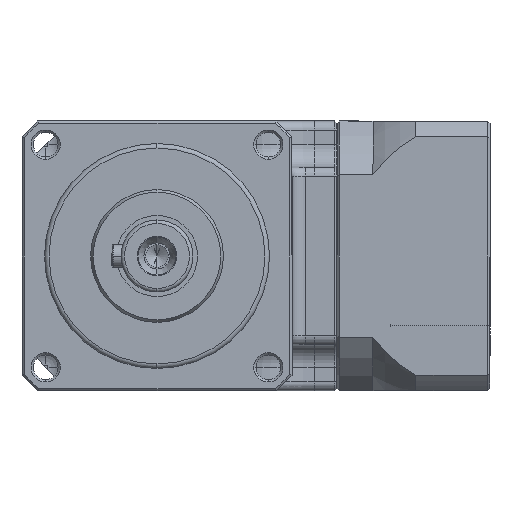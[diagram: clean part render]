
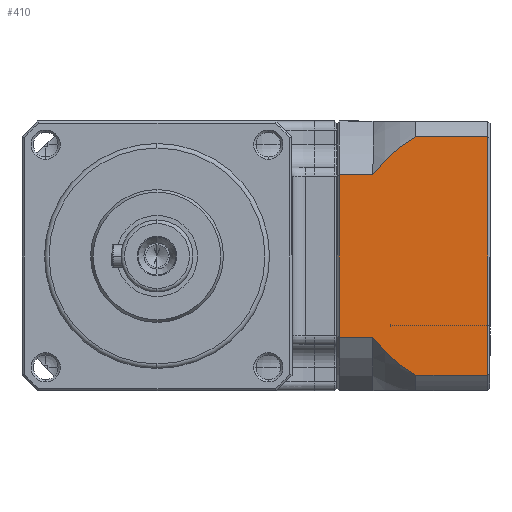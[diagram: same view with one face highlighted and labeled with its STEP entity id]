
A CAD part, left-side view. The second image highlights one B-rep face of the part: STEP entity #410.
In plain terms, the highlighted planar face has unit normal (-1, 0, 0).
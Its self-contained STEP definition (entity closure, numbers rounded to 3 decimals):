
#12 = CARTESIAN_POINT ( 'NONE',  ( -94.915, -6.428, -18.028 ) ) ;
#37 = CARTESIAN_POINT ( 'NONE',  ( -94.915, -39.428, -26.458 ) ) ;
#242 = EDGE_CURVE ( 'NONE', #864, #7754, #10297, .T. ) ;
#279 = DIRECTION ( 'NONE',  ( 0., 0., 1. ) ) ;
#410 = ADVANCED_FACE ( 'NONE', ( #5212 ), #8305, .T. ) ;
#492 = CARTESIAN_POINT ( 'NONE',  ( -94.915, -21.592, -25.36 ) ) ;
#608 = CARTESIAN_POINT ( 'NONE',  ( -94.915, -22.501, -25.929 ) ) ;
#632 = CARTESIAN_POINT ( 'NONE',  ( -94.915, -16.192, 26.458 ) ) ;
#748 = LINE ( 'NONE', #7892, #1726 ) ;
#864 = VERTEX_POINT ( 'NONE', #9892 ) ;
#876 = VERTEX_POINT ( 'NONE', #6378 ) ;
#1425 = VERTEX_POINT ( 'NONE', #7051 ) ;
#1726 = VECTOR ( 'NONE', #6139, 1000. ) ;
#2205 = CARTESIAN_POINT ( 'NONE',  ( -94.915, -39.428, 26.458 ) ) ;
#2316 = CARTESIAN_POINT ( 'NONE',  ( -94.915, -23.428, -26.458 ) ) ;
#2707 = VERTEX_POINT ( 'NONE', #37 ) ;
#2817 = VECTOR ( 'NONE', #4449, 1000. ) ;
#2979 = EDGE_LOOP ( 'NONE', ( #8581, #6240, #4646, #10051, #6019, #10329, #8052, #6110 ) ) ;
#3294 = VERTEX_POINT ( 'NONE', #6276 ) ;
#3393 = DIRECTION ( 'NONE',  ( 0., 1., 0. ) ) ;
#3545 = CARTESIAN_POINT ( 'NONE',  ( -94.915, -19.847, 24.143 ) ) ;
#3666 = CARTESIAN_POINT ( 'NONE',  ( -94.915, -21.595, 25.379 ) ) ;
#3778 = DIRECTION ( 'NONE',  ( -1., 0., 0. ) ) ;
#4093 = CARTESIAN_POINT ( 'NONE',  ( -94.915, -16.658, -21.309 ) ) ;
#4374 = CARTESIAN_POINT ( 'NONE',  ( -94.915, -6.428, -18.028 ) ) ;
#4449 = DIRECTION ( 'NONE',  ( 0., 0., -1. ) ) ;
#4557 = LINE ( 'NONE', #8365, #4818 ) ;
#4646 = ORIENTED_EDGE ( 'NONE', *, *, #8276, .T. ) ;
#4818 = VECTOR ( 'NONE', #5671, 1000. ) ;
#4953 = EDGE_CURVE ( 'NONE', #3294, #864, #7681, .T. ) ;
#4964 = CARTESIAN_POINT ( 'NONE',  ( -94.915, -22.961, -26.2 ) ) ;
#5062 = DIRECTION ( 'NONE',  ( 0., 1., 0. ) ) ;
#5152 = CARTESIAN_POINT ( 'NONE',  ( -94.915, -23.428, -26.458 ) ) ;
#5172 = LINE ( 'NONE', #632, #10000 ) ;
#5212 = FACE_OUTER_BOUND ( 'NONE', #2979, .T. ) ;
#5487 = VERTEX_POINT ( 'NONE', #5152 ) ;
#5589 = VECTOR ( 'NONE', #6668, 1000. ) ;
#5671 = DIRECTION ( 'NONE',  ( 0., -1., 0. ) ) ;
#5699 = EDGE_CURVE ( 'NONE', #2707, #876, #9276, .T. ) ;
#5781 = VECTOR ( 'NONE', #3393, 1000. ) ;
#5942 = CARTESIAN_POINT ( 'NONE',  ( -94.915, -18.997, -23.467 ) ) ;
#6003 = B_SPLINE_CURVE_WITH_KNOTS ( 'NONE', 3,
 ( #7732, #9466, #6783, #4093, #11195, #5942, #10393, #8512, #492, #608, #4964, #2316 ),
 .UNSPECIFIED., .F., .F.,
 ( 4, 2, 2, 2, 2, 4 ),
 ( 0.019, 0.022, 0.026, 0.029, 0.03, 0.032 ),
 .UNSPECIFIED. ) ;
#6019 = ORIENTED_EDGE ( 'NONE', *, *, #6722, .T. ) ;
#6110 = ORIENTED_EDGE ( 'NONE', *, *, #4953, .T. ) ;
#6139 = DIRECTION ( 'NONE',  ( 0., -1., 0. ) ) ;
#6240 = ORIENTED_EDGE ( 'NONE', *, *, #8700, .T. ) ;
#6251 = CARTESIAN_POINT ( 'NONE',  ( -94.915, -13.928, 18.028 ) ) ;
#6276 = CARTESIAN_POINT ( 'NONE',  ( -94.915, -23.428, 26.458 ) ) ;
#6296 = CARTESIAN_POINT ( 'NONE',  ( -94.915, -15.182, 19.762 ) ) ;
#6378 = CARTESIAN_POINT ( 'NONE',  ( -94.915, -39.428, 26.458 ) ) ;
#6668 = DIRECTION ( 'NONE',  ( 0., 0., 1. ) ) ;
#6722 = EDGE_CURVE ( 'NONE', #5487, #2707, #4557, .T. ) ;
#6783 = CARTESIAN_POINT ( 'NONE',  ( -94.915, -15.232, -19.732 ) ) ;
#7051 = CARTESIAN_POINT ( 'NONE',  ( -94.915, -13.928, -18.028 ) ) ;
#7163 = CARTESIAN_POINT ( 'NONE',  ( -94.915, -16.605, 21.34 ) ) ;
#7404 = CARTESIAN_POINT ( 'NONE',  ( -94.915, -39.928, 30. ) ) ;
#7568 = LINE ( 'NONE', #12, #2817 ) ;
#7681 = B_SPLINE_CURVE_WITH_KNOTS ( 'NONE', 3,
 ( #9110, #10835, #3666, #3545, #9968, #7163, #6296, #6251 ),
 .UNSPECIFIED., .F., .F.,
 ( 4, 2, 2, 4 ),
 ( 0.153, 0.156, 0.16, 0.166 ),
 .UNSPECIFIED. ) ;
#7732 = CARTESIAN_POINT ( 'NONE',  ( -94.915, -13.928, -18.028 ) ) ;
#7754 = VERTEX_POINT ( 'NONE', #10791 ) ;
#7892 = CARTESIAN_POINT ( 'NONE',  ( -94.915, -16.192, -18.028 ) ) ;
#8052 = ORIENTED_EDGE ( 'NONE', *, *, #10207, .T. ) ;
#8171 = EDGE_CURVE ( 'NONE', #1425, #5487, #6003, .T. ) ;
#8276 = EDGE_CURVE ( 'NONE', #11351, #1425, #748, .T. ) ;
#8305 = PLANE ( 'NONE',  #8676 ) ;
#8365 = CARTESIAN_POINT ( 'NONE',  ( -94.915, -16.192, -26.458 ) ) ;
#8512 = CARTESIAN_POINT ( 'NONE',  ( -94.915, -21.143, -25.06 ) ) ;
#8581 = ORIENTED_EDGE ( 'NONE', *, *, #242, .T. ) ;
#8676 = AXIS2_PLACEMENT_3D ( 'NONE', #7404, #3778, #279 ) ;
#8700 = EDGE_CURVE ( 'NONE', #7754, #11351, #7568, .T. ) ;
#8794 = CARTESIAN_POINT ( 'NONE',  ( -94.915, -16.192, 18.028 ) ) ;
#9110 = CARTESIAN_POINT ( 'NONE',  ( -94.915, -23.428, 26.458 ) ) ;
#9276 = LINE ( 'NONE', #2205, #5589 ) ;
#9466 = CARTESIAN_POINT ( 'NONE',  ( -94.915, -14.558, -18.9 ) ) ;
#9892 = CARTESIAN_POINT ( 'NONE',  ( -94.915, -13.928, 18.028 ) ) ;
#9968 = CARTESIAN_POINT ( 'NONE',  ( -94.915, -19., 23.47 ) ) ;
#10000 = VECTOR ( 'NONE', #5062, 1000. ) ;
#10051 = ORIENTED_EDGE ( 'NONE', *, *, #8171, .T. ) ;
#10207 = EDGE_CURVE ( 'NONE', #876, #3294, #5172, .T. ) ;
#10297 = LINE ( 'NONE', #8794, #5781 ) ;
#10329 = ORIENTED_EDGE ( 'NONE', *, *, #5699, .T. ) ;
#10393 = CARTESIAN_POINT ( 'NONE',  ( -94.915, -19.83, -24.13 ) ) ;
#10791 = CARTESIAN_POINT ( 'NONE',  ( -94.915, -6.428, 18.028 ) ) ;
#10835 = CARTESIAN_POINT ( 'NONE',  ( -94.915, -22.497, 25.944 ) ) ;
#11195 = CARTESIAN_POINT ( 'NONE',  ( -94.915, -17.411, -22.057 ) ) ;
#11351 = VERTEX_POINT ( 'NONE', #4374 ) ;
